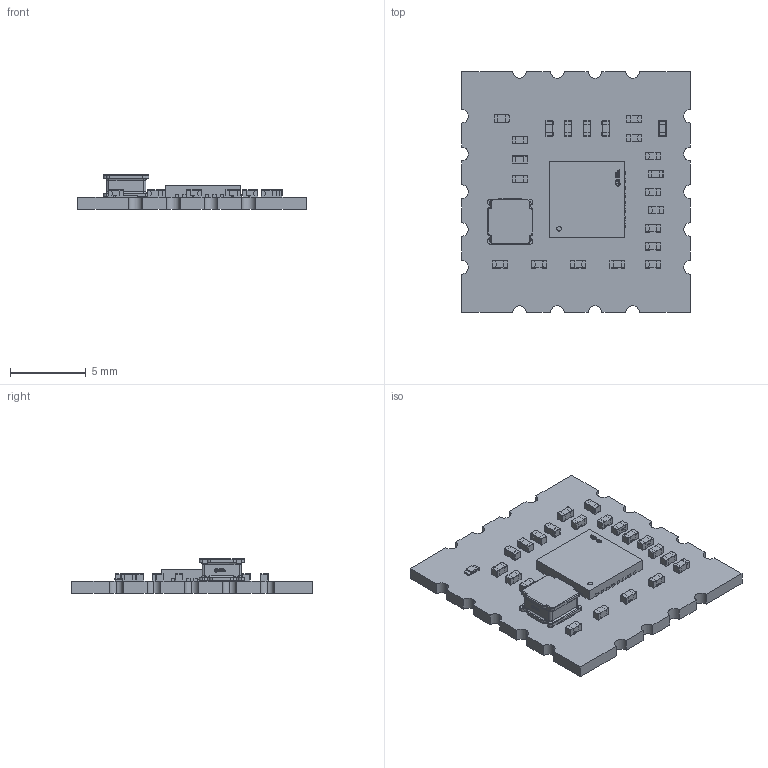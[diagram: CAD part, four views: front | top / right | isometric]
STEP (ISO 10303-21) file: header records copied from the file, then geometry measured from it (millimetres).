
FILE_DESCRIPTION(('Designed by EasyEDA Pro'),'2;1');
FILE_NAME('Open CASCADE Shape Model','2023-05-26T15:36:23',('Author'),( 'Open CASCADE'),'Open CASCADE STEP processor 7.6','Open CASCADE 7.6' ,'Unknown');
FILE_SCHEMA(('AUTOMOTIVE_DESIGN { 1 0 10303 214 1 1 1 1 }'));
Length unit declared in the file: millimetre
Products named in the file (36): PCBModel; COMPOUND; C1; C0402; SOLID; C2; C3; C4; C5; C6; C7; C8; C9; C11; C10; C12; C13; C14; C15; C16; R2; R0402; R5; R1; R3; R4; LED1; LED0402-RD; U1; qfn-32l_l5.0-w5.0-p0.50-ep; L1; IND-SMD_L3.0-W3.0
Assembly tree (54 placements, depth 4):
  PCBModel
    COMPOUND
    C1
      C0402
        SOLID
    C2
      C0402
        SOLID
    C3
      C0402
        SOLID
    C4
      C0402
        SOLID
    C5
      C0402
        SOLID
    C6
      C0402
        SOLID
    C7
      C0402
        SOLID
    C8
      C0402
        SOLID
    C9
      C0402
        SOLID
    C11
      C0402
        SOLID
    C10
      C0402
        SOLID
    C12
      C0402
        SOLID
    C13
      C0402
        SOLID
    C14
      C0402
        SOLID
    C15
      C0402
        SOLID
    C16
      C0402
        SOLID
    R2
      R0402
        SOLID
    R5
      R0402
        SOLID
    R1
      R0402
        SOLID
    R3
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Bounding box: 15.14 x 15.95 x 2.31 mm (x, y, z)
Volume: 223.5 mm3; surface area: 684.4 mm2
Topology: 40 solids, 40 shells, 8721 faces, 23297 edges, 15052 vertices
Faces by surface type: plane 4810, bspline 2628, cylinder 1081, sphere 168, torus 34
Entity records: 85243 total; most frequent: CARTESIAN_POINT 22147, ORIENTED_EDGE 10896, DIRECTION 7692, EDGE_CURVE 5448, LINE 3710, VECTOR 3710, VERTEX_POINT 3574, FACE_BOUND 2140
